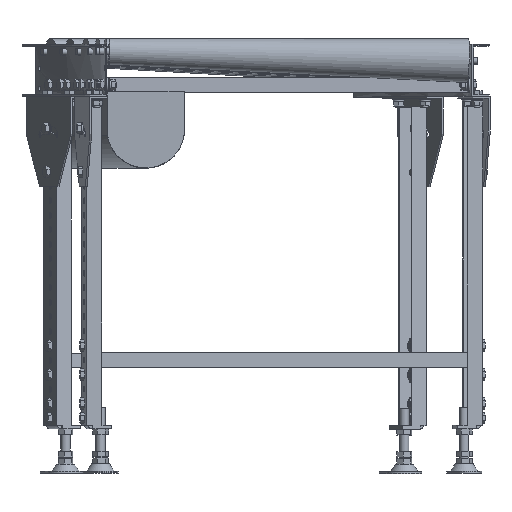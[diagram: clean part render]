
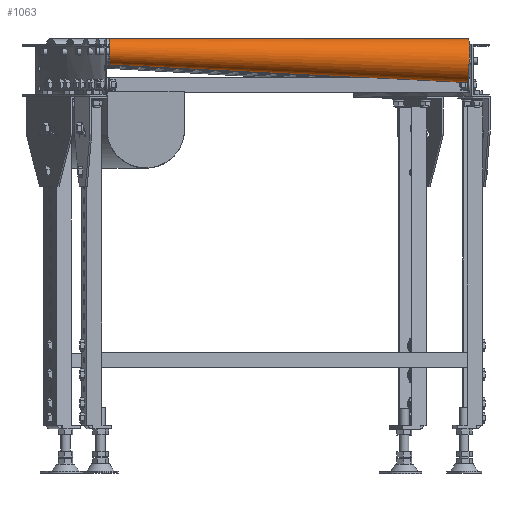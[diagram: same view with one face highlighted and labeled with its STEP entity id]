
A CAD part, top view. The second image highlights one B-rep face of the part: STEP entity #1063.
In plain terms, the highlighted free-form (B-spline) face has degree [2, 1] with [7, 2] control points.
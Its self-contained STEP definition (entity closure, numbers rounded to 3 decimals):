
#1063=ADVANCED_FACE('',(#3319),#3318,.T.);
#3318=( BOUNDED_SURFACE() B_SPLINE_SURFACE( 2,1,((#25482,#25483),(#25484,#25485),(#25486,#25487),(#25488,#25489),(#25490,#25491),(#25492,#25493),(#25494,#25495)), .UNSPECIFIED.,.T.,.F.,.F.) B_SPLINE_SURFACE_WITH_KNOTS((3,2,2,3),(2,2),(0.,0.333,0.667,1.),(0.,1.), .UNSPECIFIED. ) GEOMETRIC_REPRESENTATION_ITEM() RATIONAL_B_SPLINE_SURFACE(((1.,1.),(0.5,0.5),(1.,1.),(0.5,0.5),(1.,1.),(0.5,0.5),(1.,1.))) REPRESENTATION_ITEM('') SURFACE() );
#3319=FACE_OUTER_BOUND('',#25496,.T.);
#25482=CARTESIAN_POINT('',(905.276,-11.419,-19.835));
#25483=CARTESIAN_POINT('',(1525.27,-19.213,-33.473));
#25484=CARTESIAN_POINT('',(905.276,-45.48,-0.37));
#25485=CARTESIAN_POINT('',(1525.27,-76.508,-0.731));
#25486=CARTESIAN_POINT('',(903.57,-45.286,-39.563));
#25487=CARTESIAN_POINT('',(1522.399,-76.181,-66.659));
#25488=CARTESIAN_POINT('',(901.863,-45.091,-78.757));
#25489=CARTESIAN_POINT('',(1519.529,-75.853,-132.587));
#25490=CARTESIAN_POINT('',(903.57,-11.224,-59.028));
#25491=CARTESIAN_POINT('',(1522.399,-18.885,-99.401));
#25492=CARTESIAN_POINT('',(905.276,22.642,-39.3));
#25493=CARTESIAN_POINT('',(1525.27,38.082,-66.216));
#25494=CARTESIAN_POINT('',(905.276,-11.419,-19.835));
#25495=CARTESIAN_POINT('',(1525.27,-19.213,-33.473));
#25496=EDGE_LOOP('',(#36868,#36869,#36870,#36871,#36872));
#36868=ORIENTED_EDGE('',*,*,#47388,.T.);
#36869=ORIENTED_EDGE('',*,*,#47398,.T.);
#36870=ORIENTED_EDGE('',*,*,#47391,.T.);
#36871=ORIENTED_EDGE('',*,*,#47398,.F.);
#36872=ORIENTED_EDGE('',*,*,#47387,.T.);
#47387=EDGE_CURVE('',#52656,#52657,#52658,.T.);
#47388=EDGE_CURVE('',#52657,#52656,#52664,.T.);
#47391=EDGE_CURVE('',#52684,#52684,#52685,.T.);
#47398=EDGE_CURVE('',#52656,#52684,#52731,.T.);
#52656=VERTEX_POINT('',#87654);
#52657=VERTEX_POINT('',#87655);
#52658=CIRCLE('',#87659,22.65);
#52664=CIRCLE('',#87663,22.65);
#52684=VERTEX_POINT('',#87674);
#52685=CIRCLE('',#87678,38.1);
#52731=(BOUNDED_CURVE() B_SPLINE_CURVE(1,(#87703,#87704),.UNSPECIFIED.,.F.,.F.) B_SPLINE_CURVE_WITH_KNOTS((2,2),(0.,1.),.UNSPECIFIED.) CURVE() GEOMETRIC_REPRESENTATION_ITEM() RATIONAL_B_SPLINE_CURVE((1.,1.)) REPRESENTATION_ITEM('') );
#87654=CARTESIAN_POINT('',(905.276,-11.419,-19.835));
#87655=CARTESIAN_POINT('',(903.001,-33.867,-59.116));
#87656=CARTESIAN_POINT('',(904.139,-22.643,-39.476));
#87657=DIRECTION('',(0.999,-0.025,-0.044));
#87658=DIRECTION('',(-0.05,-0.496,-0.867));
#87659=AXIS2_PLACEMENT_3D('',#87656,#87657,#87658);
#87660=CARTESIAN_POINT('',(904.139,-22.643,-39.476));
#87661=DIRECTION('',(0.999,-0.025,-0.044));
#87662=DIRECTION('',(-0.05,-0.496,-0.867));
#87663=AXIS2_PLACEMENT_3D('',#87660,#87661,#87662);
#87674=CARTESIAN_POINT('',(1525.27,-19.213,-33.473));
#87675=CARTESIAN_POINT('',(1523.356,-38.093,-66.511));
#87676=DIRECTION('',(-0.999,0.025,0.044));
#87677=DIRECTION('',(0.05,0.496,0.867));
#87678=AXIS2_PLACEMENT_3D('',#87675,#87676,#87677);
#87703=CARTESIAN_POINT('',(905.276,-11.419,-19.835));
#87704=CARTESIAN_POINT('',(1525.27,-19.213,-33.473));
